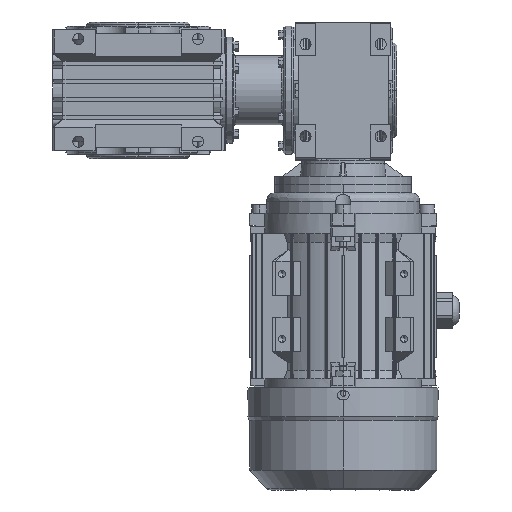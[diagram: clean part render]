
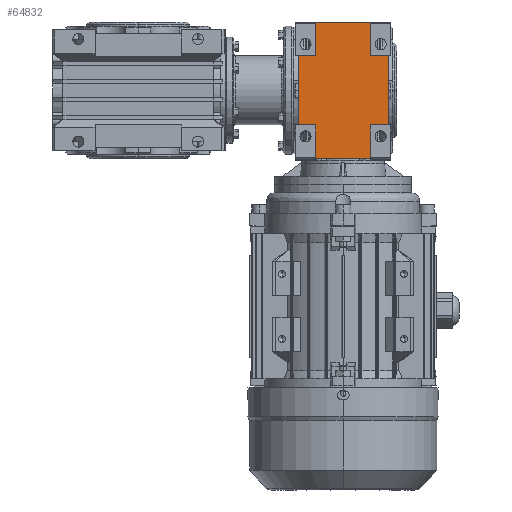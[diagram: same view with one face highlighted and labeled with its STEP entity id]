
A CAD part, front view. The second image highlights one B-rep face of the part: STEP entity #64832.
In plain terms, the highlighted planar face has unit normal (0, -1, 0) as drawn and (0, 1, 0) by its records, which use the part's own axes.
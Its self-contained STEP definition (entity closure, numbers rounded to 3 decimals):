
#3596 = CARTESIAN_POINT ( 'NONE',  ( -16., 55.32, -39.66 ) ) ;
#3598 = CARTESIAN_POINT ( 'NONE',  ( 16., 55.32, -39.66 ) ) ;
#3626 = CARTESIAN_POINT ( 'NONE',  ( 16., 55.32, 39.66 ) ) ;
#3631 = CARTESIAN_POINT ( 'NONE',  ( -16., 55.32, 39.66 ) ) ;
#3844 = CARTESIAN_POINT ( 'NONE',  ( 16., 55.32, -20.25 ) ) ;
#3902 = CARTESIAN_POINT ( 'NONE',  ( -16., 55.32, -20.25 ) ) ;
#3946 = CARTESIAN_POINT ( 'NONE',  ( -16., 55.32, 20.25 ) ) ;
#3949 = CARTESIAN_POINT ( 'NONE',  ( 16., 55.32, 20.25 ) ) ;
#3951 = CARTESIAN_POINT ( 'NONE',  ( 26.32, 55.32, -20.25 ) ) ;
#3953 = CARTESIAN_POINT ( 'NONE',  ( 26.32, 55.32, 20.25 ) ) ;
#3955 = CARTESIAN_POINT ( 'NONE',  ( -26.32, 55.32, 20.25 ) ) ;
#3958 = CARTESIAN_POINT ( 'NONE',  ( -26.32, 55.32, -20.25 ) ) ;
#25955 = EDGE_LOOP ( 'NONE', ( #71456, #71458, #71460, #71462, #71464, #71466, #71468, #71470, #71472, #71474, #71476, #71478 ) ) ;
#39477 = FACE_OUTER_BOUND ( 'NONE', #25955, .T. ) ;
#47215 = AXIS2_PLACEMENT_3D ( 'NONE', #81351, #81358, #81359 ) ;
#57372 = VERTEX_POINT ( 'NONE', #3596 ) ;
#57373 = VERTEX_POINT ( 'NONE', #3598 ) ;
#57385 = VERTEX_POINT ( 'NONE', #3626 ) ;
#57387 = VERTEX_POINT ( 'NONE', #3631 ) ;
#57476 = VERTEX_POINT ( 'NONE', #3844 ) ;
#57499 = VERTEX_POINT ( 'NONE', #3902 ) ;
#57516 = VERTEX_POINT ( 'NONE', #3946 ) ;
#57517 = VERTEX_POINT ( 'NONE', #3949 ) ;
#57518 = VERTEX_POINT ( 'NONE', #3951 ) ;
#57519 = VERTEX_POINT ( 'NONE', #3953 ) ;
#57520 = VERTEX_POINT ( 'NONE', #3955 ) ;
#57521 = VERTEX_POINT ( 'NONE', #3958 ) ;
#64832 = ADVANCED_FACE ( 'NONE', ( #39477 ), #81353, .T. ) ;
#71456 = ORIENTED_EDGE ( 'NONE', *, *, #98124, .F. ) ;
#71458 = ORIENTED_EDGE ( 'NONE', *, *, #98131, .F. ) ;
#71460 = ORIENTED_EDGE ( 'NONE', *, *, #98023, .T. ) ;
#71462 = ORIENTED_EDGE ( 'NONE', *, *, #97931, .T. ) ;
#71464 = ORIENTED_EDGE ( 'NONE', *, *, #97922, .T. ) ;
#71466 = ORIENTED_EDGE ( 'NONE', *, *, #98137, .F. ) ;
#71468 = ORIENTED_EDGE ( 'NONE', *, *, #98144, .F. ) ;
#71470 = ORIENTED_EDGE ( 'NONE', *, *, #98151, .F. ) ;
#71472 = ORIENTED_EDGE ( 'NONE', *, *, #98157, .F. ) ;
#71474 = ORIENTED_EDGE ( 'NONE', *, *, #98056, .T. ) ;
#71476 = ORIENTED_EDGE ( 'NONE', *, *, #98163, .F. ) ;
#71478 = ORIENTED_EDGE ( 'NONE', *, *, #98169, .F. ) ;
#81351 = CARTESIAN_POINT ( 'NONE',  ( -16., 55.32, 40.5 ) ) ;
#81353 = PLANE ( 'NONE',  #47215 ) ;
#81358 = DIRECTION ( 'NONE',  ( 0., 1., 0. ) ) ;
#81359 = DIRECTION ( 'NONE',  ( -1., 0., 0. ) ) ;
#97922 = EDGE_CURVE ( 'NONE', #57372, #57499, #100075, .T. ) ;
#97931 = EDGE_CURVE ( 'NONE', #57373, #57372, #100086, .T. ) ;
#98023 = EDGE_CURVE ( 'NONE', #57476, #57373, #100138, .T. ) ;
#98056 = EDGE_CURVE ( 'NONE', #57387, #57385, #100167, .T. ) ;
#98124 = EDGE_CURVE ( 'NONE', #57518, #57519, #100202, .T. ) ;
#98131 = EDGE_CURVE ( 'NONE', #57476, #57518, #100205, .T. ) ;
#98137 = EDGE_CURVE ( 'NONE', #57521, #57499, #100207, .T. ) ;
#98144 = EDGE_CURVE ( 'NONE', #57520, #57521, #100209, .T. ) ;
#98151 = EDGE_CURVE ( 'NONE', #57516, #57520, #100211, .T. ) ;
#98157 = EDGE_CURVE ( 'NONE', #57387, #57516, #100214, .T. ) ;
#98163 = EDGE_CURVE ( 'NONE', #57517, #57385, #100218, .T. ) ;
#98169 = EDGE_CURVE ( 'NONE', #57519, #57517, #100222, .T. ) ;
#99328 = CARTESIAN_POINT ( 'NONE',  ( -16., 55.32, 40.5 ) ) ;
#99334 = DIRECTION ( 'NONE',  ( 0., 0., 1. ) ) ;
#99345 = CARTESIAN_POINT ( 'NONE',  ( -16., 55.32, -39.66 ) ) ;
#99346 = DIRECTION ( 'NONE',  ( -1., 0., 0. ) ) ;
#99427 = CARTESIAN_POINT ( 'NONE',  ( 16., 55.32, 40.5 ) ) ;
#99438 = DIRECTION ( 'NONE',  ( 0., 0., -1. ) ) ;
#99463 = CARTESIAN_POINT ( 'NONE',  ( -16., 55.32, 39.66 ) ) ;
#99464 = DIRECTION ( 'NONE',  ( 1., 0., 0. ) ) ;
#99518 = DIRECTION ( 'NONE',  ( 1., 0., 0. ) ) ;
#99519 = CARTESIAN_POINT ( 'NONE',  ( 28., 55.32, -20.25 ) ) ;
#99522 = CARTESIAN_POINT ( 'NONE',  ( 26.32, 55.32, 40.5 ) ) ;
#99523 = DIRECTION ( 'NONE',  ( 0., 0., 1. ) ) ;
#99533 = CARTESIAN_POINT ( 'NONE',  ( -28., 55.32, -20.25 ) ) ;
#99534 = DIRECTION ( 'NONE',  ( 1., 0., 0. ) ) ;
#99539 = CARTESIAN_POINT ( 'NONE',  ( -26.32, 55.32, 40.5 ) ) ;
#99540 = DIRECTION ( 'NONE',  ( 0., 0., -1. ) ) ;
#99543 = CARTESIAN_POINT ( 'NONE',  ( -27.16, 55.32, 20.25 ) ) ;
#99544 = DIRECTION ( 'NONE',  ( -1., 0., 0. ) ) ;
#99547 = CARTESIAN_POINT ( 'NONE',  ( -16., 55.32, 40.5 ) ) ;
#99548 = DIRECTION ( 'NONE',  ( 0., 0., -1. ) ) ;
#99551 = CARTESIAN_POINT ( 'NONE',  ( 16., 55.32, 40.5 ) ) ;
#99552 = DIRECTION ( 'NONE',  ( 0., 0., 1. ) ) ;
#99555 = CARTESIAN_POINT ( 'NONE',  ( 28., 55.32, 20.25 ) ) ;
#99556 = DIRECTION ( 'NONE',  ( -1., 0., 0. ) ) ;
#100075 = LINE ( 'NONE', #99328, #100080 ) ;
#100080 = VECTOR ( 'NONE', #99334, 1000. ) ;
#100086 = LINE ( 'NONE', #99345, #100089 ) ;
#100089 = VECTOR ( 'NONE', #99346, 1000. ) ;
#100138 = LINE ( 'NONE', #99427, #100152 ) ;
#100152 = VECTOR ( 'NONE', #99438, 1000. ) ;
#100167 = LINE ( 'NONE', #99463, #100170 ) ;
#100170 = VECTOR ( 'NONE', #99464, 1000. ) ;
#100202 = LINE ( 'NONE', #99522, #100204 ) ;
#100204 = VECTOR ( 'NONE', #99523, 1000. ) ;
#100205 = LINE ( 'NONE', #99519, #100206 ) ;
#100206 = VECTOR ( 'NONE', #99518, 1000. ) ;
#100207 = LINE ( 'NONE', #99533, #100208 ) ;
#100208 = VECTOR ( 'NONE', #99534, 1000. ) ;
#100209 = LINE ( 'NONE', #99539, #100210 ) ;
#100210 = VECTOR ( 'NONE', #99540, 1000. ) ;
#100211 = LINE ( 'NONE', #99543, #100213 ) ;
#100213 = VECTOR ( 'NONE', #99544, 1000. ) ;
#100214 = LINE ( 'NONE', #99547, #100217 ) ;
#100217 = VECTOR ( 'NONE', #99548, 1000. ) ;
#100218 = LINE ( 'NONE', #99551, #100221 ) ;
#100221 = VECTOR ( 'NONE', #99552, 1000. ) ;
#100222 = LINE ( 'NONE', #99555, #100225 ) ;
#100225 = VECTOR ( 'NONE', #99556, 1000. ) ;
